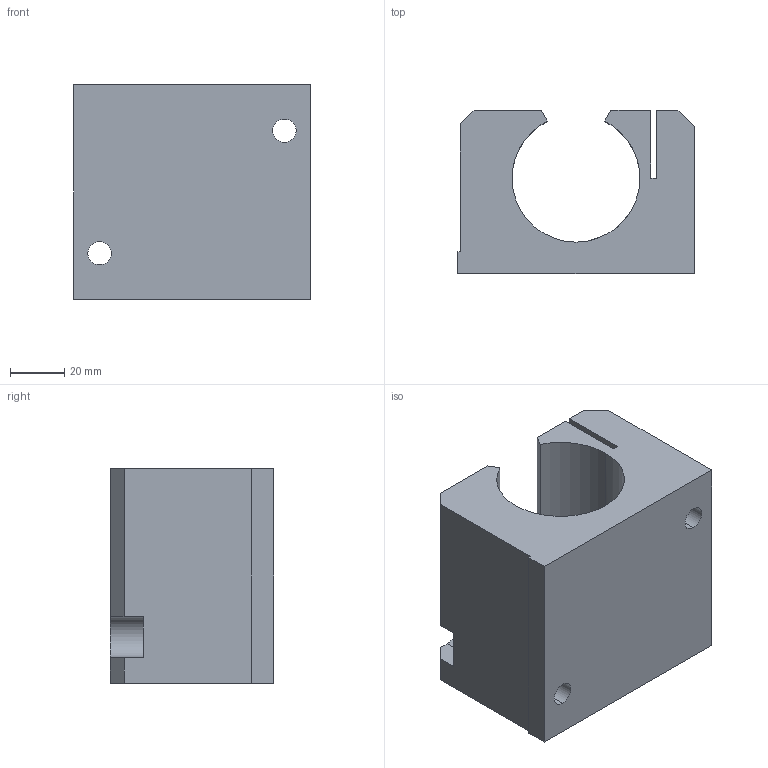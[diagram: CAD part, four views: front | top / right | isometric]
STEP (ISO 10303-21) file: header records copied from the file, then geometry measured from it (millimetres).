
FILE_DESCRIPTION (( 'STEP AP214' ), '1' );
FILE_NAME ('KGOE38-30.step', '2020-03-04T13:22:56', ( '' ), ( '' ), 'SwSTEP 2.0', 'SolidWorks 2019', '' );
FILE_SCHEMA (( 'AUTOMOTIVE_DESIGN' ));
Length unit declared in the file: millimetre
Products named in the file (1): KGOE38-30
Bounding box: 87 x 60 x 79 mm (x, y, z)
Volume: 247975.4 mm3; surface area: 45665.4 mm2
Topology: 1 solids, 1 shells, 52 faces, 149 edges, 98 vertices
Faces by surface type: plane 29, cylinder 21, cone 2
Entity records: 1967 total; most frequent: CARTESIAN_POINT 410, ORIENTED_EDGE 298, DIRECTION 289, EDGE_CURVE 149, LINE 103, VECTOR 103, VERTEX_POINT 98, AXIS2_PLACEMENT_3D 93
